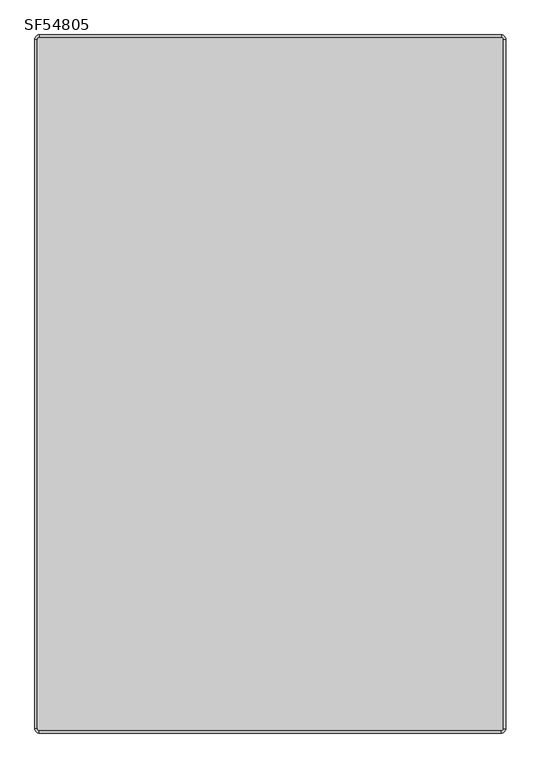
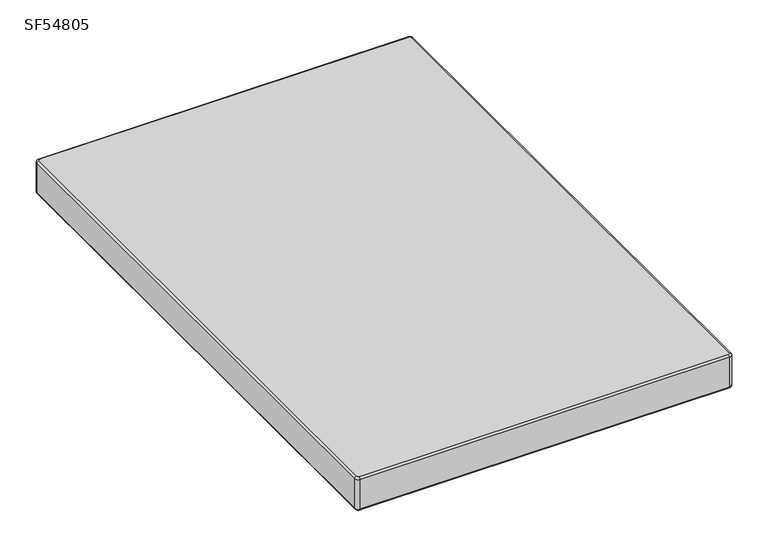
"""IFC4 building model written with IfcOpenShell, lengths in millimetres: furniture geometry, Stance_HC-Lotus-Matress : SF54805."""

from ifc_helpers import new_model, si_unit, point, frame, origin, place, context, project, spatial, circle_curve, ellipse_curve, trimmed, source, transform, mapped, element, save
from ifc_brep_helpers import plane_surface, cylinder_surface, revolved_surface, advanced_brep


def sf54805_bda6a78f(model_context):
    return source(origin(), model_context, "Body", "AdvancedBrep", [
        advanced_brep(
        [(12.7, 0.0, 463.55), (0.0, -12.7, 463.55), (6.35, -12.7, 469.9), (12.7, -6.35, 469.9), (12.7, 0.0, 349.25), (0.0, -12.7, 349.25), (12.7, -6.35, 342.9), (6.35, -12.7, 342.9), (1358.9, -6.35, 469.9), (1358.9, 0.0, 463.55), (1358.9, 0.0, 349.25), (1358.9, -6.35, 342.9), (1365.25, -12.7, 469.9), (1371.6, -12.7, 463.55), (1371.6, -12.7, 349.25), (1365.25, -12.7, 342.9), (1365.25, -2019.3, 469.9), (1371.6, -2019.3, 463.55), (1371.6, -2019.3, 349.25), (1365.25, -2019.3, 342.9), (1358.9, -2025.65, 469.9), (1358.9, -2032.0, 463.55), (1358.9, -2032.0, 349.25), (1358.9, -2025.65, 342.9), (12.7, -2025.65, 469.9), (12.7, -2032.0, 463.55), (12.7, -2032.0, 349.25), (12.7, -2025.65, 342.9), (6.35, -2019.3, 469.9), (0.0, -2019.3, 463.55), (0.0, -2019.3, 349.25), (6.35, -2019.3, 342.9)],
        [
            (0, 1, circle_curve(frame((12.7, -12.7, 463.55), z_axis=(0.0, 0.0, 1.0), x_axis=(-1.0, 0.0, 0.0)), 12.7)),
            (1, 2, circle_curve(frame((6.35, -12.7, 463.55), z_axis=(0.0, 1.0, 0.0), x_axis=(1.0, 0.0, 0.0)), 6.35)),
            (2, 3, circle_curve(frame((12.7, -12.7, 469.9), z_axis=(0.0, 0.0, -1.0), x_axis=(-1.0, 0.0, 0.0)), 6.35)),
            (3, 0, circle_curve(frame((12.7, -6.35, 463.55), z_axis=(-1.0, 0.0, 0.0), x_axis=(0.0, -1.0, 0.0)), 6.35)),
            (0, 4),
            (4, 5, circle_curve(frame((12.7, -12.7, 349.25), z_axis=(0.0, 0.0, 1.0), x_axis=(-1.0, 0.0, 0.0)), 12.7)),
            (5, 1),
            (4, 6, circle_curve(frame((12.7, -6.35, 349.25), z_axis=(-1.0, 0.0, 0.0), x_axis=(0.0, -1.0, 0.0)), 6.35)),
            (6, 7, circle_curve(frame((12.7, -12.7, 342.9), z_axis=(0.0, 0.0, 1.0), x_axis=(-1.0, 0.0, 0.0)), 6.35)),
            (7, 5, circle_curve(frame((6.35, -12.7, 349.25), z_axis=(0.0, 1.0, 0.0), x_axis=(1.0, 0.0, 0.0)), 6.35)),
            (3, 8),
            (8, 9, circle_curve(frame((1358.9, -6.35, 463.55), z_axis=(-1.0, 0.0, 0.0), x_axis=(0.0, -1.0, 0.0)), 6.35)),
            (9, 0),
            (9, 10),
            (10, 4),
            (10, 11, circle_curve(frame((1358.9, -6.35, 349.25), z_axis=(-1.0, 0.0, 0.0), x_axis=(0.0, -1.0, 0.0)), 6.35)),
            (11, 6),
            (8, 12, circle_curve(frame((1358.9, -12.7, 469.9), z_axis=(0.0, 0.0, -1.0), x_axis=(0.0, 1.0, 0.0)), 6.35)),
            (12, 13, circle_curve(frame((1365.25, -12.7, 463.55), z_axis=(0.0, 1.0, 0.0), x_axis=(-1.0, 0.0, 0.0)), 6.35)),
            (13, 9, circle_curve(frame((1358.9, -12.7, 463.55), z_axis=(0.0, 0.0, 1.0), x_axis=(0.0, 1.0, 0.0)), 12.7)),
            (13, 14),
            (14, 10, circle_curve(frame((1358.9, -12.7, 349.25), z_axis=(0.0, 0.0, 1.0), x_axis=(0.0, 1.0, 0.0)), 12.7)),
            (14, 15, circle_curve(frame((1365.25, -12.7, 349.25), z_axis=(0.0, 1.0, 0.0), x_axis=(-1.0, 0.0, 0.0)), 6.35)),
            (15, 11, circle_curve(frame((1358.9, -12.7, 342.9), z_axis=(0.0, 0.0, 1.0), x_axis=(0.0, 1.0, 0.0)), 6.35)),
            (12, 16),
            (16, 17, circle_curve(frame((1365.25, -2019.3, 463.55), z_axis=(0.0, 1.0, 0.0), x_axis=(-1.0, 0.0, 0.0)), 6.35)),
            (17, 13),
            (17, 18),
            (18, 14),
            (18, 19, circle_curve(frame((1365.25, -2019.3, 349.25), z_axis=(0.0, 1.0, 0.0), x_axis=(-1.0, 0.0, 0.0)), 6.35)),
            (19, 15),
            (16, 20, circle_curve(frame((1358.9, -2019.3, 469.9), z_axis=(0.0, 0.0, -1.0), x_axis=(1.0, 0.0, 0.0)), 6.35)),
            (20, 21, circle_curve(frame((1358.9, -2025.65, 463.55), z_axis=(1.0, 0.0, 0.0), x_axis=(0.0, 1.0, 0.0)), 6.35)),
            (21, 17, circle_curve(frame((1358.9, -2019.3, 463.55), z_axis=(0.0, 0.0, 1.0), x_axis=(1.0, 0.0, 0.0)), 12.7)),
            (21, 22),
            (22, 18, circle_curve(frame((1358.9, -2019.3, 349.25), z_axis=(0.0, 0.0, 1.0), x_axis=(1.0, 0.0, 0.0)), 12.7)),
            (22, 23, circle_curve(frame((1358.9, -2025.65, 349.25), z_axis=(1.0, 0.0, 0.0), x_axis=(0.0, 1.0, 0.0)), 6.35)),
            (23, 19, circle_curve(frame((1358.9, -2019.3, 342.9), z_axis=(0.0, 0.0, 1.0), x_axis=(1.0, 0.0, 0.0)), 6.35)),
            (20, 24),
            (24, 25, circle_curve(frame((12.7, -2025.65, 463.55), z_axis=(1.0, 0.0, 0.0), x_axis=(0.0, 1.0, 0.0)), 6.35)),
            (25, 21),
            (25, 26),
            (26, 22),
            (26, 27, circle_curve(frame((12.7, -2025.65, 349.25), z_axis=(1.0, 0.0, 0.0), x_axis=(0.0, 1.0, 0.0)), 6.35)),
            (27, 23),
            (24, 28, circle_curve(frame((12.7, -2019.3, 469.9), z_axis=(0.0, 0.0, -1.0), x_axis=(0.0, -1.0, 0.0)), 6.35)),
            (28, 29, circle_curve(frame((6.35, -2019.3, 463.55), z_axis=(0.0, -1.0, 0.0), x_axis=(1.0, 0.0, 0.0)), 6.35)),
            (29, 25, circle_curve(frame((12.7, -2019.3, 463.55), z_axis=(0.0, 0.0, 1.0), x_axis=(0.0, -1.0, 0.0)), 12.7)),
            (29, 30),
            (30, 26, circle_curve(frame((12.7, -2019.3, 349.25), z_axis=(0.0, 0.0, 1.0), x_axis=(0.0, -1.0, 0.0)), 12.7)),
            (30, 31, circle_curve(frame((6.35, -2019.3, 349.25), z_axis=(0.0, -1.0, 0.0), x_axis=(1.0, 0.0, 0.0)), 6.35)),
            (31, 27, circle_curve(frame((12.7, -2019.3, 342.9), z_axis=(0.0, 0.0, 1.0), x_axis=(0.0, -1.0, 0.0)), 6.35)),
            (2, 28),
            (1, 29),
            (5, 30),
            (7, 31),
        ],
        [
            revolved_surface(trimmed(ellipse_curve(frame((6.35, -12.7, 463.55), z_axis=(0.0, -1.0, 0.0), x_axis=(1.0, 0.0, 0.0)), 6.35, 6.35), [point((6.35, -12.7, 469.9))], [point((0.0, -12.7, 463.55))], True, "CARTESIAN"), (12.7, -12.7, 0.0), (0.0, 0.0, -1.0)),
            cylinder_surface(frame((12.7, -12.7, 0.0), z_axis=(0.0, 0.0, -1.0), x_axis=(-1.0, 0.0, 0.0)), 12.7),
            revolved_surface(trimmed(ellipse_curve(frame((6.35, -12.7, 349.25), z_axis=(0.0, -1.0, 0.0), x_axis=(1.0, 0.0, 0.0)), 6.35, 6.35), [point((0.0, -12.7, 349.25))], [point((6.35, -12.7, 342.9))], True, "CARTESIAN"), (12.7, -12.7, 0.0), (0.0, 0.0, -1.0)),
            cylinder_surface(frame((12.7, -6.35, 463.55), z_axis=(-1.0, 0.0, 0.0), x_axis=(0.0, -1.0, 0.0)), 6.35),
            plane_surface(frame((12.7, 0.0, 463.55), z_axis=(0.0, 1.0, 0.0), x_axis=(1.0, 0.0, 0.0))),
            cylinder_surface(frame((12.7, -6.35, 349.25), z_axis=(-1.0, 0.0, 0.0), x_axis=(0.0, -1.0, 0.0)), 6.35),
            revolved_surface(trimmed(ellipse_curve(frame((1358.9, -6.35, 463.55), z_axis=(-1.0, 0.0, 0.0), x_axis=(0.0, -1.0, 0.0)), 6.35, 6.35), [point((1358.9, -6.35, 469.9))], [point((1358.9, 0.0, 463.55))], True, "CARTESIAN"), (1358.9, -12.7, 0.0), (0.0, 0.0, -1.0)),
            cylinder_surface(frame((1358.9, -12.7, 0.0), z_axis=(0.0, 0.0, -1.0), x_axis=(0.0, 1.0, 0.0)), 12.7),
            revolved_surface(trimmed(ellipse_curve(frame((1358.9, -6.35, 349.25), z_axis=(-1.0, 0.0, 0.0), x_axis=(0.0, -1.0, 0.0)), 6.35, 6.35), [point((1358.9, 0.0, 349.25))], [point((1358.9, -6.35, 342.9))], True, "CARTESIAN"), (1358.9, -12.7, 0.0), (0.0, 0.0, -1.0)),
            cylinder_surface(frame((1365.25, -12.7, 463.55), z_axis=(0.0, 1.0, 0.0), x_axis=(-1.0, 0.0, 0.0)), 6.35),
            plane_surface(frame((1371.6, -12.7, 463.55), z_axis=(1.0, 0.0, 0.0), x_axis=(0.0, -1.0, 0.0))),
            cylinder_surface(frame((1365.25, -12.7, 349.25), z_axis=(0.0, 1.0, 0.0), x_axis=(-1.0, 0.0, 0.0)), 6.35),
            revolved_surface(trimmed(ellipse_curve(frame((1365.25, -2019.3, 463.55), z_axis=(0.0, 1.0, 0.0), x_axis=(-1.0, 0.0, 0.0)), 6.35, 6.35), [point((1365.25, -2019.3, 469.9))], [point((1371.6, -2019.3, 463.55))], True, "CARTESIAN"), (1358.9, -2019.3, 0.0), (0.0, 0.0, -1.0)),
            cylinder_surface(frame((1358.9, -2019.3, 0.0), z_axis=(0.0, 0.0, -1.0), x_axis=(1.0, 0.0, 0.0)), 12.7),
            revolved_surface(trimmed(ellipse_curve(frame((1365.25, -2019.3, 349.25), z_axis=(0.0, 1.0, 0.0), x_axis=(-1.0, 0.0, 0.0)), 6.35, 6.35), [point((1371.6, -2019.3, 349.25))], [point((1365.25, -2019.3, 342.9))], True, "CARTESIAN"), (1358.9, -2019.3, 0.0), (0.0, 0.0, -1.0)),
            cylinder_surface(frame((1358.9, -2025.65, 463.55), z_axis=(1.0, 0.0, 0.0), x_axis=(0.0, 1.0, 0.0)), 6.35),
            plane_surface(frame((1358.9, -2032.0, 463.55), z_axis=(0.0, -1.0, 0.0), x_axis=(-1.0, 0.0, 0.0))),
            cylinder_surface(frame((1358.9, -2025.65, 349.25), z_axis=(1.0, 0.0, 0.0), x_axis=(0.0, 1.0, 0.0)), 6.35),
            revolved_surface(trimmed(ellipse_curve(frame((12.7, -2025.65, 463.55), z_axis=(1.0, 0.0, 0.0), x_axis=(0.0, 1.0, 0.0)), 6.35, 6.35), [point((12.7, -2025.65, 469.9))], [point((12.7, -2032.0, 463.55))], True, "CARTESIAN"), (12.7, -2019.3, 0.0), (0.0, 0.0, -1.0)),
            cylinder_surface(frame((12.7, -2019.3, 0.0), z_axis=(0.0, 0.0, -1.0), x_axis=(0.0, -1.0, 0.0)), 12.7),
            revolved_surface(trimmed(ellipse_curve(frame((12.7, -2025.65, 349.25), z_axis=(1.0, 0.0, 0.0), x_axis=(0.0, 1.0, 0.0)), 6.35, 6.35), [point((12.7, -2032.0, 349.25))], [point((12.7, -2025.65, 342.9))], True, "CARTESIAN"), (12.7, -2019.3, 0.0), (0.0, 0.0, -1.0)),
            plane_surface(frame((9.525, -2019.3, 469.9), z_axis=(0.0, 0.0, 1.0), x_axis=(0.0, 1.0, 0.0))),
            cylinder_surface(frame((6.35, -2019.3, 463.55), z_axis=(0.0, -1.0, 0.0), x_axis=(1.0, 0.0, 0.0)), 6.35),
            plane_surface(frame((0.0, -2019.3, 463.55), z_axis=(-1.0, 0.0, 0.0), x_axis=(0.0, 1.0, 0.0))),
            cylinder_surface(frame((6.35, -2019.3, 349.25), z_axis=(0.0, -1.0, 0.0), x_axis=(1.0, 0.0, 0.0)), 6.35),
            plane_surface(frame((6.35, -2019.3, 342.9), z_axis=(0.0, 0.0, -1.0), x_axis=(0.0, 1.0, 0.0))),
        ],
        [
            (0, [[1, 2, 3, 4]]),
            (1, [[-1, 5, 6, 7]]),
            (2, [[-6, 8, 9, 10]]),
            (3, [[-4, 11, 12, 13]]),
            (4, [[-5, -13, 14, 15]]),
            (5, [[-8, -15, 16, 17]]),
            (6, [[-12, 18, 19, 20]]),
            (7, [[-14, -20, 21, 22]]),
            (8, [[-16, -22, 23, 24]]),
            (9, [[-19, 25, 26, 27]]),
            (10, [[-21, -27, 28, 29]]),
            (11, [[-23, -29, 30, 31]]),
            (12, [[-26, 32, 33, 34]]),
            (13, [[-28, -34, 35, 36]]),
            (14, [[-30, -36, 37, 38]]),
            (15, [[-33, 39, 40, 41]]),
            (16, [[-35, -41, 42, 43]]),
            (17, [[-37, -43, 44, 45]]),
            (18, [[-40, 46, 47, 48]]),
            (19, [[-42, -48, 49, 50]]),
            (20, [[-44, -50, 51, 52]]),
            (21, [[-3, 53, -46, -39, -32, -25, -18, -11]]),
            (22, [[-2, 54, -47, -53]]),
            (23, [[-7, 55, -49, -54]]),
            (24, [[-10, 56, -51, -55]]),
            (25, [[-9, -17, -24, -31, -38, -45, -52, -56]]),
        ],
    ),
    ])


if __name__ == "__main__":
    model = new_model("IFC4")
    model_context = context("Model", 3, world=origin())
    ifc_project = project(units=[si_unit("LENGTHUNIT", "METRE", prefix="MILLI")], contexts=[model_context])
    site = spatial("IfcSite", under=ifc_project)
    building = spatial("IfcBuilding", under=site)
    placement = place(None, origin())
    sf54805_shape = sf54805_bda6a78f(model_context)
    element("IfcFurniture", 1, ObjectType="Stance_HC-Lotus-Matress : SF54805", at=placement, inside=building, context=model_context, shape_type="MappedRepresentation", body=[
        mapped(sf54805_shape, transform((0.0, 0.0, 0.0), x_axis=(1.0, 0.0, 0.0), y_axis=(0.0, 1.0, 0.0), z_axis=(0.0, 0.0, 1.0))),
    ])
    save(model, "model.ifc")
